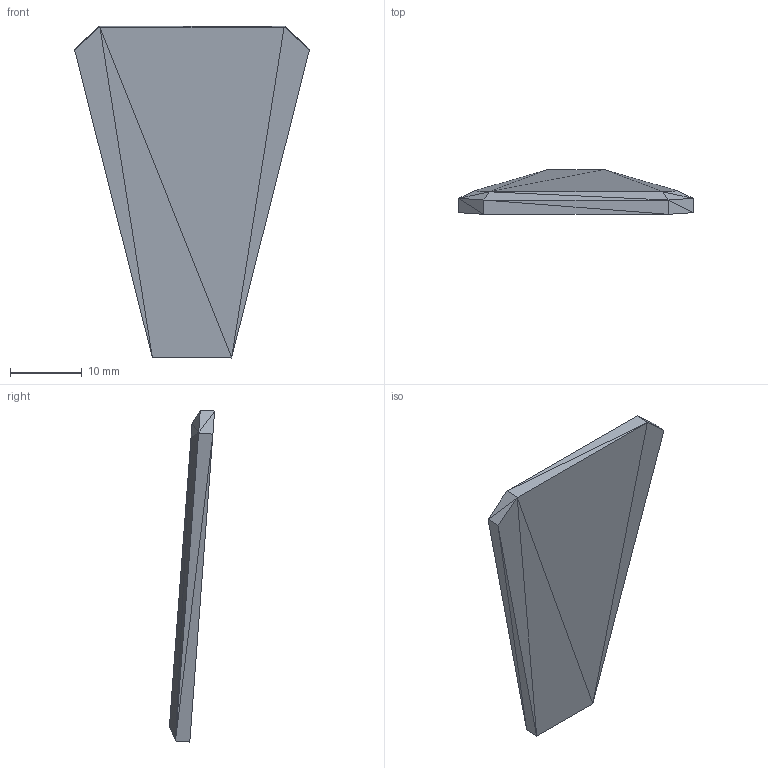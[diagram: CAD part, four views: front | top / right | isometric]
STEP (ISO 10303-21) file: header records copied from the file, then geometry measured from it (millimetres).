
FILE_DESCRIPTION((''),'2;1');
FILE_NAME('Crystal', '2025-03-27T07:26:01', (''), (''), 'ImageToStl.com STEP Converter','', '');
FILE_SCHEMA(('AUTOMOTIVE_DESIGN_CC2'));
Length unit declared in the file: metre
Products named in the file (1): product0
Bounding box: 32.69 x 6.3 x 46.28 mm (x, y, z)
Surface area: 2370.9 mm2 (no closed solid volume)
Topology: 0 solids, 32 shells, 32 faces, 96 edges, 18 vertices
Faces by surface type: plane 32
Entity records: 807 total; most frequent: DIRECTION 162, ORIENTED_EDGE 96, EDGE_CURVE 96, LINE 96, VECTOR 96, AXIS2_PLACEMENT_3D 33, STYLED_ITEM 33, FACE_SURFACE 32
